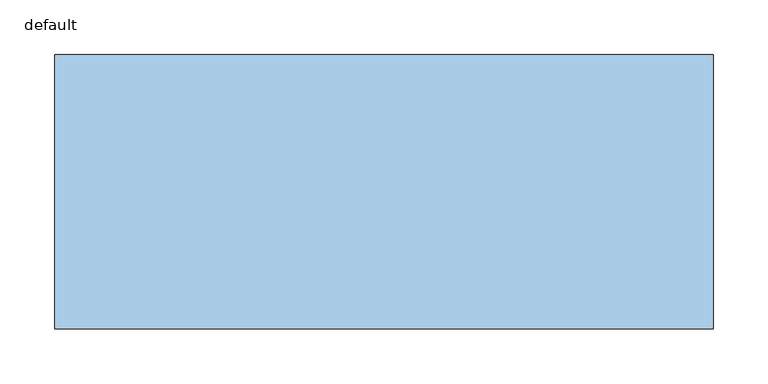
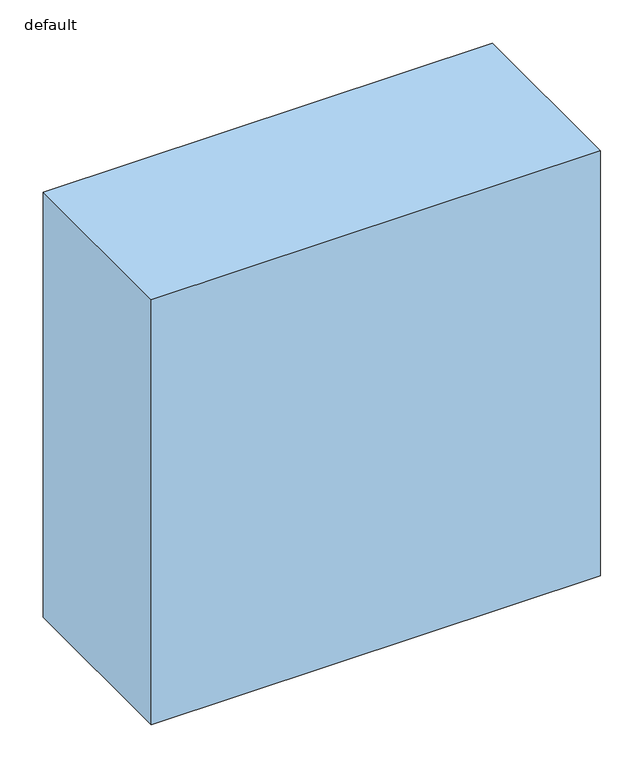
"""IFC4 building model written with IfcOpenShell, lengths in millimetres: window geometry, Wn_Отв-П в стене : default."""

from ifc_helpers import new_model, si_unit, origin, origin_with_axes, place, context, project, spatial, polyline, outline, extrude, source, transform, mapped, element, save


def default_f80e23c6(model_context):
    return source(origin(), model_context, "Body", "SweptSolid", [
        extrude(outline(polyline([(-175.0, -125.0), (-175.0, 125.0), (425.0, 125.0), (425.0, -125.0), (-175.0, -125.0)])), origin_with_axes(), (0.0, 0.0, 1.0), 600.0),
    ])


if __name__ == "__main__":
    model = new_model("IFC4")
    model_context = context("Model", 3, world=origin())
    ifc_project = project(units=[si_unit("LENGTHUNIT", "METRE", prefix="MILLI")], contexts=[model_context])
    site = spatial("IfcSite", under=ifc_project)
    building = spatial("IfcBuilding", under=site)
    placement = place(None, origin())
    default_shape = default_f80e23c6(model_context)
    element("IfcWindow", 1, ObjectType="Wn_Отв-П в стене : default", at=placement, inside=building, context=model_context, shape_type="MappedRepresentation", body=[
        mapped(default_shape, transform((0.0, 0.0, 0.0), x_axis=(1.0, 0.0, 0.0), y_axis=(0.0, 1.0, 0.0), z_axis=(0.0, 0.0, 1.0))),
    ])
    save(model, "model.ifc")
